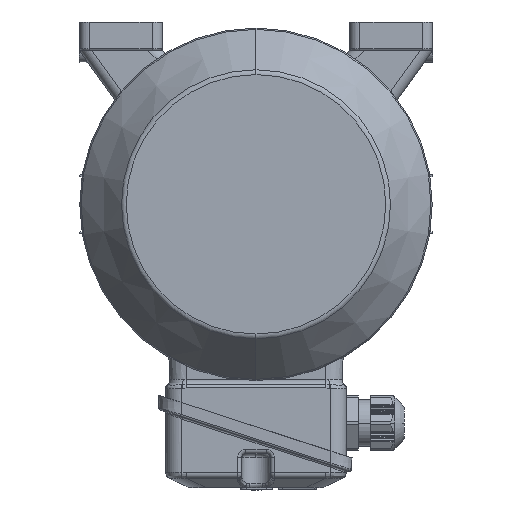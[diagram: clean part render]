
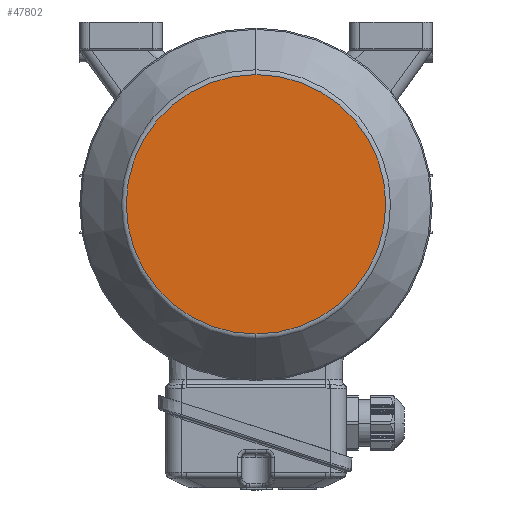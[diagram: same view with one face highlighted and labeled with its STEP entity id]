
A CAD part, left-side view. The second image highlights one B-rep face of the part: STEP entity #47802.
In plain terms, the highlighted planar face has unit normal (-1, 0, 0).
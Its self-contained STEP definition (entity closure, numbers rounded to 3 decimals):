
#2567 = CARTESIAN_POINT ( 'NONE',  ( -161., 0., -64.037 ) ) ;
#4553 = PLANE ( 'NONE',  #51050 ) ;
#6886 = ORIENTED_EDGE ( 'NONE', *, *, #41695, .F. ) ;
#12187 = CARTESIAN_POINT ( 'NONE',  ( -161., 0., -64.037 ) ) ;
#13314 = EDGE_LOOP ( 'NONE', ( #6886, #36398 ) ) ;
#15305 = DIRECTION ( 'NONE',  ( 0., 0., -1. ) ) ;
#21508 = AXIS2_PLACEMENT_3D ( 'NONE', #31290, #31116, #15305 ) ;
#22973 = CIRCLE ( 'NONE', #29613, 64.037 ) ;
#25136 = DIRECTION ( 'NONE',  ( 0., 0., -1. ) ) ;
#28991 = DIRECTION ( 'NONE',  ( 0., 1., 0. ) ) ;
#29408 = CARTESIAN_POINT ( 'NONE',  ( -161., 0., 0. ) ) ;
#29613 = AXIS2_PLACEMENT_3D ( 'NONE', #29408, #49466, #25136 ) ;
#30246 = FACE_OUTER_BOUND ( 'NONE', #13314, .T. ) ;
#31116 = DIRECTION ( 'NONE',  ( 1., 0., 0. ) ) ;
#31290 = CARTESIAN_POINT ( 'NONE',  ( -161., 0., 0. ) ) ;
#34602 = VERTEX_POINT ( 'NONE', #50606 ) ;
#36398 = ORIENTED_EDGE ( 'NONE', *, *, #39879, .F. ) ;
#39879 = EDGE_CURVE ( 'NONE', #34602, #40446, #22973, .T. ) ;
#40159 = CIRCLE ( 'NONE', #21508, 64.037 ) ;
#40446 = VERTEX_POINT ( 'NONE', #2567 ) ;
#41695 = EDGE_CURVE ( 'NONE', #40446, #34602, #40159, .T. ) ;
#45166 = DIRECTION ( 'NONE',  ( -1., 0., 0. ) ) ;
#47802 = ADVANCED_FACE ( 'NONE', ( #30246 ), #4553, .T. ) ;
#49466 = DIRECTION ( 'NONE',  ( 1., 0., 0. ) ) ;
#50606 = CARTESIAN_POINT ( 'NONE',  ( -161., 0., 64.037 ) ) ;
#51050 = AXIS2_PLACEMENT_3D ( 'NONE', #12187, #45166, #28991 ) ;
